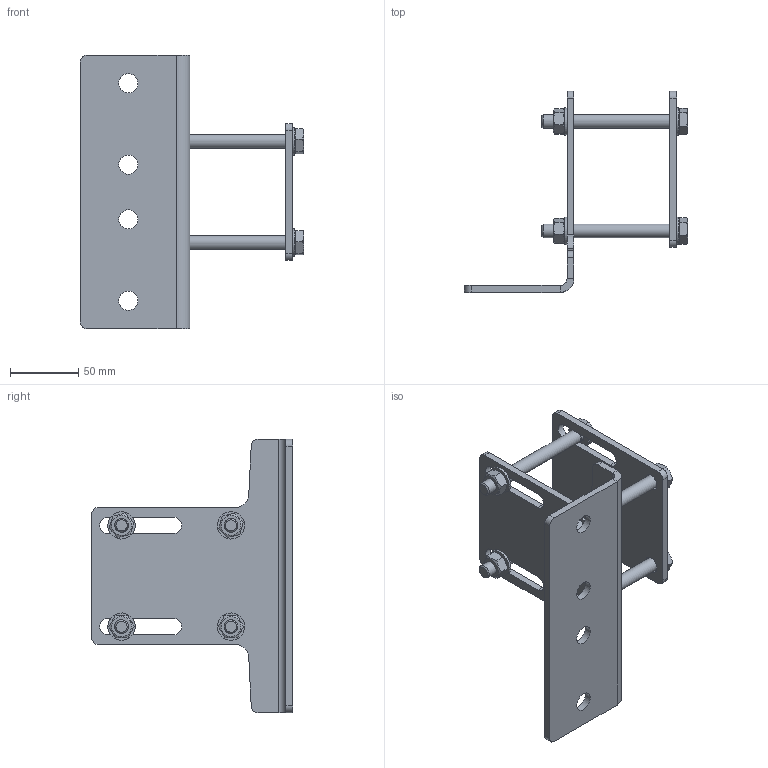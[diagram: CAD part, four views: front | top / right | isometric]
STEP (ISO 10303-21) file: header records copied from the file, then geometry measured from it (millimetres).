
FILE_DESCRIPTION(/* description */ (''),/* implementation_level */ '2;1');
FILE_NAME(/* name */ 'D:\VDV Techniek\Documents\Inventor\_ISP_Products\UDG on SquareTube\UDG SquareTube Clamped\STP\Square tube 70mm-out-Mounting bracket.stp',/* time_stamp */ '2022-12-29T15:45:04+01:00',/* author */ ('jos'),/* organization */ (''),/* preprocessor_version */ 'ST-DEVELOPER v15.2',/* originating_system */ 'Autodesk Inventor 2014',/* authorisation */ '');
FILE_SCHEMA (('AUTOMOTIVE_DESIGN { 1 0 10303 214 3 1 1 }'));
Length unit declared in the file: millimetre
Products named in the file (6): UDG_Mounting_Bracket_universal_HDG; UDG_Counter_Plate_universal_HDG; ISO 4032 - M10DIN EN; DIN 126 - 11; DIN 933 - M10  x 100; Square tube 70mm-out-Mounting bracket
Assembly tree (18 placements, depth 2):
  Square tube 70mm-out-Mounting bracket
    UDG_Mounting_Bracket_universal_HDG
    UDG_Counter_Plate_universal_HDG
    ISO 4032 - M10DIN EN  x4
    DIN 126 - 11  x8
    DIN 933 - M10  x 100  x4
Bounding box: 163.1 x 147 x 200 mm (x, y, z)
Volume: 244482.4 mm3; surface area: 114519.3 mm2
Topology: 18 solids, 18 shells, 228 faces, 504 edges, 320 vertices
Faces by surface type: plane 118, cylinder 62, cone 48
Full cylindrical faces by diameter (mm): 8.376 x4, 9.188 x4, 10 x4, 11 x8, 12 x4, 14 x4, 15.4 x4, 20 x8
Entity records: 3034 total; most frequent: CARTESIAN_POINT 538, DIRECTION 520, ORIENTED_EDGE 434, EDGE_CURVE 217, AXIS2_PLACEMENT_3D 205, VERTEX_POINT 151, EDGE_LOOP 148, LINE 110
